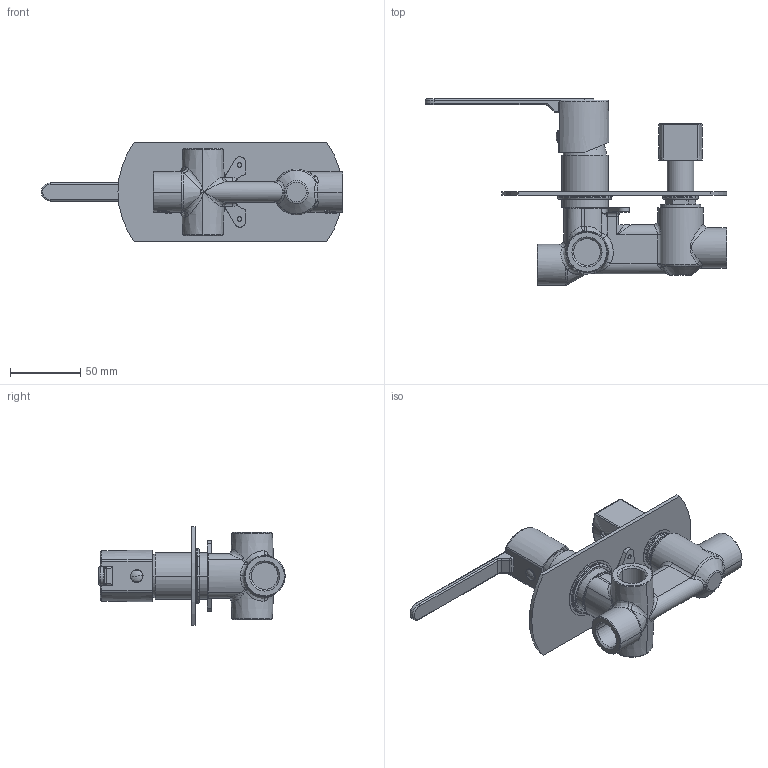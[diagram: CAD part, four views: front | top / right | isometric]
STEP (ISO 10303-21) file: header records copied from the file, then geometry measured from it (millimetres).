
FILE_DESCRIPTION((''),'2;1');
FILE_NAME('65541200_ASM_ASM','2023-01-05T',('Administrator'),(''),'PRO/ENGINEER BY PARAMETRIC TECHNOLOGY CORPORATION, 2015240','PRO/ENGINEER BY PARAMETRIC TECHNOLOGY CORPORATION, 2015240','');
FILE_SCHEMA(('CONFIG_CONTROL_DESIGN'));
Products named in the file (27): 5655412-0122SX_2_1; 513811-0322_1_1; 61511942_1_1; 5655411-0200_1_2; 513822-0300_1_2; 61100112_1_2; 61800800_1; 60930400_1_2; MANIFOLD_SOLID_BREP_75577_1; MANIFOLD_SOLID_BREP_76107_1; MANIFOLD_SOLID_BREP_76637_1; 61817800_1_ASM_ASM_1_ASM; 61517142_1_1; 61505742_1_1; 65541200_ASM_2_ASM_ASM_2_ASM; 65541200_ASM_ASM_ASM_1_ASM; 61322922_1; 61818900_1; 60721741_1; 7609353-0100_1; 7609354-0200_1; 61101612_1; 60935400_ASM_1_ASM; 60700544_1; 61100612_1; 65541200_ASM_3_ASM; 65541200_ASM_ASM
Assembly tree (27 placements, depth 6):
  65541200_ASM_ASM
    65541200_ASM_3_ASM
      65541200_ASM_ASM_ASM_1_ASM
        65541200_ASM_2_ASM_ASM_2_ASM
          5655412-0122SX_2_1
          513811-0322_1_1
          61511942_1_1
          5655411-0200_1_2
          513822-0300_1_2
          61100112_1_2
          61800800_1
          60930400_1_2
          61817800_1_ASM_ASM_1_ASM
            MANIFOLD_SOLID_BREP_75577_1
            MANIFOLD_SOLID_BREP_76107_1
            MANIFOLD_SOLID_BREP_76637_1
          61517142_1_1
          61505742_1_1
      61322922_1
      61818900_1
      60721741_1
      60935400_ASM_1_ASM
        7609353-0100_1
        7609354-0200_1
        61101612_1  x2
      60700544_1
      61100612_1
Bounding box: 214.63 x 132.51 x 70 mm (x, y, z)
Volume: 219645.9 mm3; surface area: 114951.4 mm2
Topology: 23 solids, 34 shells, 2086 faces, 5846 edges, 3880 vertices
Faces by surface type: plane 1246, cylinder 439, bspline 146, torus 127, cone 114, sphere 10, extrusion 4
Entity records: 79623 total; most frequent: CARTESIAN_POINT 27197, ORIENTED_EDGE 11464, DIRECTION 10099, EDGE_CURVE 5750, VERTEX_POINT 3826, AXIS2_PLACEMENT_3D 3496, VECTOR 3107, LINE 3103
